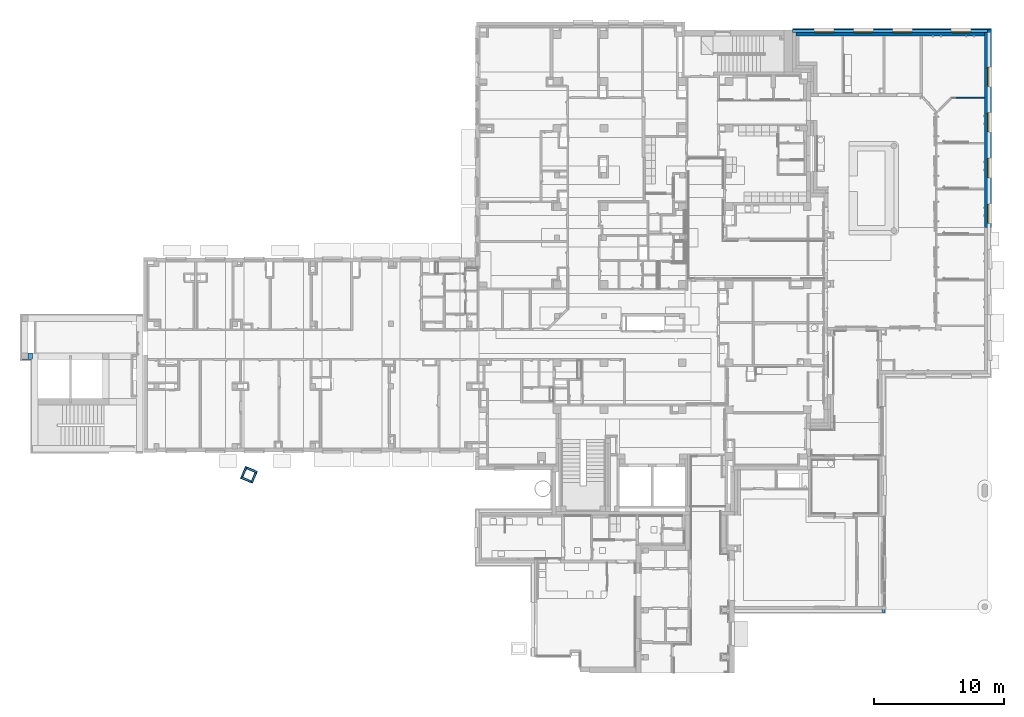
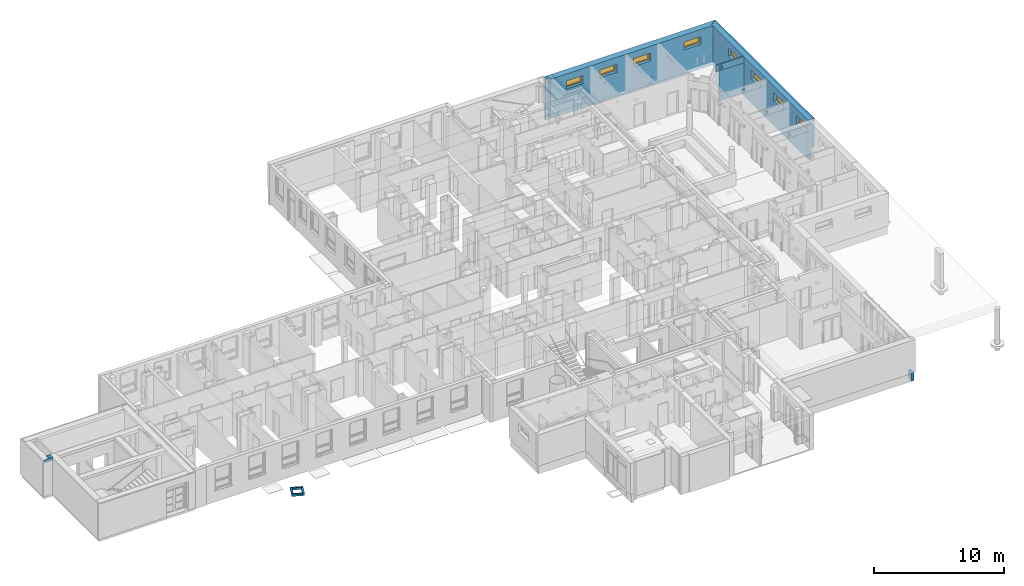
# One storey, part 60 of 140: 11 walls, 8 windows, 9 openings.
"""IFC4 building model written with IfcOpenShell, lengths in metres."""

from ifc_helpers import new_model, entity, si_unit, converted_unit, derived_unit, frame, frame_2d, origin, origin_with_axes, place, context, subcontext, project, spatial, polyline, rectangle, outline, extrude, clip, bounded_halfspace, closed_shell, open_shell, surface_model, source, transform, mapped, material, layer, layer_set, layer_usage, element, fill, save


model = new_model("IFC4")

# Units and contexts
model_context = context("Model", 3, precision=1e-05, world=origin())
body_context = subcontext(model_context, "Body", "Model", "MODEL_VIEW")
ifc_project = project(units=[si_unit("LENGTHUNIT", "METRE"), si_unit("AREAUNIT", "SQUARE_METRE"), si_unit("VOLUMEUNIT", "CUBIC_METRE"), si_unit("MASSUNIT", "GRAM", prefix="KILO"), converted_unit("PLANEANGLEUNIT", "DEGREE", entity("IfcPlaneAngleMeasure", 0.0174532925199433), si_unit("PLANEANGLEUNIT", "RADIAN"), dimensions=[0, 0, 0, 0, 0, 0, 0]), derived_unit("THERMALTRANSMITTANCEUNIT", [(si_unit("POWERUNIT", "WATT"), 1), (si_unit("THERMODYNAMICTEMPERATUREUNIT", "KELVIN"), -1), (si_unit("LENGTHUNIT", "METRE"), -2)]), derived_unit("VOLUMETRICFLOWRATEUNIT", [(si_unit("LENGTHUNIT", "METRE"), 3), (converted_unit("TIMEUNIT", "hour", entity("IfcTimeMeasure", 3600.0), si_unit("TIMEUNIT", "SECOND"), dimensions=[0, 0, 1, 0, 0, 0, 0]), -1), (si_unit("LENGTHUNIT", "METRE"), -1)])], contexts=[model_context])

# Site, building, storey
site_placement = place(None, origin())
site = spatial("IfcSite", under=ifc_project, at=site_placement, Name="3. ASŘ", CompositionType="ELEMENT")
building_placement = place(site_placement, origin())
building = spatial("IfcBuilding", under=site, at=building_placement, Name="Pavilon C", CompositionType="ELEMENT")
storey_placement = place(building_placement, origin())
storey = spatial("IfcBuildingStorey", under=building, at=storey_placement, Name="Půdorys 1.NP", CompositionType="ELEMENT", Elevation=0.0)

# Walls
ifc_material_1 = material(Name="ZELEZOBETONOVÁ KCE")
ifc_layer_1 = layer(ifc_material_1, 0.14999999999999)
ifc_layer_set_1 = layer_set([ifc_layer_1])
ifc_layer_usage_1 = layer_usage(ifc_layer_set_1, "AXIS2", "POSITIVE", 0.0)
wall_1_placement = place(storey_placement, frame((7.750225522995, -1.12928860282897, -0.35), z_axis=(0.0, 0.0, 1.0), x_axis=(-0.924305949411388, 0.381652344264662, 0.0)))
element("IfcWall", 1, at=wall_1_placement, inside=storey, material=ifc_layer_usage_1, Name="ZELEZOBETONOVÁ KCE", context=body_context, shape_type="SweptSolid", body=[
    extrude(rectangle(XDim=0.850000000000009, YDim=0.14999999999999, at=frame_2d((0.425000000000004, 0.0749999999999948), x_axis=(1.0, 0.0))), origin_with_axes(), (0.0, 0.0, 1.0), 0.2),
])
ifc_material_2 = material(Name="ZELEZOBETONOVÁ KCE")
ifc_layer_2 = layer(ifc_material_2, 0.149999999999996)
ifc_layer_set_2 = layer_set([ifc_layer_2])
ifc_layer_usage_2 = layer_usage(ifc_layer_set_2, "AXIS2", "POSITIVE", 0.0)
wall_2_placement = place(storey_placement, frame((6.82591957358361, -0.747636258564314, -0.35), z_axis=(0.0, 0.0, 1.0), x_axis=(-0.381652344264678, -0.924305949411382, 0.0)))
element("IfcWall", 2, at=wall_2_placement, inside=storey, material=ifc_layer_usage_2, Name="ZELEZOBETONOVÁ KCE", context=body_context, shape_type="SweptSolid", body=[
    extrude(rectangle(XDim=0.849999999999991, YDim=0.149999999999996, at=frame_2d((0.424999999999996, 0.0749999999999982), x_axis=(1.0, 0.0))), origin_with_axes(), (0.0, 0.0, 1.0), 0.2),
])
ifc_material_3 = material(Name="ZELEZOBETONOVÁ KCE")
ifc_layer_3 = layer(ifc_material_3, 0.149999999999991)
ifc_layer_set_3 = layer_set([ifc_layer_3])
ifc_layer_usage_3 = layer_usage(ifc_layer_set_3, "AXIS2", "POSITIVE", 0.0)
wall_3_placement = place(storey_placement, frame((6.44426722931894, -1.67194220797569, -0.35), z_axis=(0.0, 0.0, 1.0), x_axis=(0.924305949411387, -0.381652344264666, 0.0)))
element("IfcWall", 3, at=wall_3_placement, inside=storey, material=ifc_layer_usage_3, Name="ZELEZOBETONOVÁ KCE", context=body_context, shape_type="SweptSolid", body=[
    extrude(rectangle(XDim=0.850000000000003, YDim=0.149999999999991, at=frame_2d((0.425000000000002, 0.0749999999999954), x_axis=(1.0, 0.0))), origin_with_axes(), (0.0, 0.0, 1.0), 0.2),
])
ifc_material_4 = material(Name="ZELEZOBETONOVÁ KCE")
ifc_layer_4 = layer(ifc_material_4, 0.149999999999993)
ifc_layer_set_4 = layer_set([ifc_layer_4])
ifc_layer_usage_4 = layer_usage(ifc_layer_set_4, "AXIS2", "POSITIVE", 0.0)
wall_4_placement = place(storey_placement, frame((7.36857317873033, -2.05359455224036, -0.35), z_axis=(0.0, 0.0, 1.0), x_axis=(0.381652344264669, 0.924305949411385, 0.0)))
element("IfcWall", 4, at=wall_4_placement, inside=storey, material=ifc_layer_usage_4, Name="ZELEZOBETONOVÁ KCE", context=body_context, shape_type="SweptSolid", body=[
    extrude(rectangle(XDim=0.849999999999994, YDim=0.149999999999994, at=frame_2d((0.424999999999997, 0.0749999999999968), x_axis=(1.0, 0.0))), origin_with_axes(), (0.0, 0.0, 1.0), 0.2),
])
ifc_material_5 = material(Name="ZELEZOBETONOVÁ KCE")
ifc_layer_5 = layer(ifc_material_5, 0.45)
ifc_material_6 = material(Name="LIGNOPOR")
ifc_layer_6 = layer(ifc_material_6, 0.05)
ifc_layer_set_5 = layer_set([ifc_layer_5, ifc_layer_6])
ifc_layer_usage_5 = layer_usage(ifc_layer_set_5, "AXIS2", "POSITIVE", 0.0)
wall_5_placement = place(storey_placement, frame((-9.52499999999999, 7.95, 3.13), z_axis=(0.0, 0.0, 1.0), x_axis=(-1.0, 0.0, 0.0)))
element("IfcWall", 5, at=wall_5_placement, inside=storey, material=ifc_layer_usage_5, context=body_context, shape_type="SweptSolid", body=[
    extrude(outline(polyline([(-0.799999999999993, -0.5), (-0.45, -0.5), (-0.45, -0.05), (0.0, -0.05), (0.0, 0.0), (-0.75, 0.0), (-0.75, -0.05), (-0.799999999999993, -0.05), (-0.799999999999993, -0.5)])), frame((0.799999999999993, 0.5, 0.0), z_axis=(0.0, 0.0, 1.0), x_axis=(1.0, 0.0, 0.0)), (0.0, 0.0, 1.0), 0.25),
])
ifc_material_7 = material(Name="PROSKLENÁ PŘÍČKA DVOJITÁ")
ifc_layer_7 = layer(ifc_material_7, 0.1)
ifc_layer_set_6 = layer_set([ifc_layer_7])
ifc_layer_usage_6 = layer_usage(ifc_layer_set_6, "AXIS2", "POSITIVE", 0.0)
wall_6_placement = place(storey_placement, frame((61.3341630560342, 27.5, 0.0)))
element("IfcWall", 6, at=wall_6_placement, inside=storey, material=ifc_layer_usage_6, Name="PROSKLENÁ PŘÍČKA DVOJITÁ", context=body_context, shape_type="SweptSolid", body=[
    extrude(rectangle(XDim=2.21583694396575, YDim=0.1, at=frame_2d((1.10791847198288, 0.05), x_axis=(1.0, 0.0))), origin_with_axes(), (0.0, 0.0, 1.0), 2.8),
])

# Wall, openings, windows
ifc_material_8 = material(Name="ZELEZOBETONOVÁ KCE")
ifc_layer_8 = layer(ifc_material_8, 0.25)
ifc_material_9 = material(Name="MINERÁLNÍ VATA")
ifc_layer_9 = layer(ifc_material_9, 0.3)
ifc_layer_set_7 = layer_set([ifc_layer_8, ifc_layer_9])
ifc_layer_usage_7 = layer_usage(ifc_layer_set_7, "AXIS2", "POSITIVE", 0.0)
wall_7_placement = place(storey_placement, frame((63.55, 32.55, -0.3), z_axis=(0.0, 0.0, 1.0), x_axis=(0.0, -1.0, 0.0)))
wall_7 = element("IfcWall", 7, at=wall_7_placement, inside=storey, material=ifc_layer_usage_7, Name="ZELEZOBETONOVÁ KCE", context=body_context, shape_type="Clipping", body=[
    clip(extrude(outline(polyline([(-15.17, 0.55), (-15.17, 0.25), (-14.95, 0.25), (-14.95, 0.0), (0.0, 0.0), (0.0, 0.55), (-15.17, 0.55)])), frame((14.95, 0.0, 0.0), z_axis=(0.0, 0.0, 1.0), x_axis=(1.0, 0.0, 0.0)), (0.0, 0.0, 1.0), 3.7), bounded_halfspace(frame((5.892, 0.37, 1.02), z_axis=(0.0, 0.0, 1.0), x_axis=(0.0, -1.0, 0.0)), True, origin_with_axes(), polyline([(-0.22, 0.55), (-0.22, 0.25), (0.0, 0.249999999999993), (14.95, 0.249999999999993), (14.95, 0.55), (-0.22, 0.55)]))),
])
opening_1_placement = place(wall_7_placement, frame((11.15, 0.25, 2.3), z_axis=(0.0, -1.0, 0.0), x_axis=(0.0, 0.0, 1.0)))
opening_1 = element("IfcOpeningElement", 8, at=opening_1_placement, cuts=wall_7, Name="Okenní otvor", ObjectType="Opening", context=body_context, shape_type="SweptSolid", body=[
    extrude(outline(polyline([(0.0, 1.5), (0.75, 1.5), (0.75, 0.0), (0.0, 0.0), (0.0, 1.5)])), origin_with_axes(), (0.0, 0.0, 1.0), 0.25),
    extrude(outline(polyline([(0.0, 1.5), (0.75, 1.5), (0.75, 0.0), (0.0, 0.0), (0.0, 1.5)])), frame((0.0, 0.0, -0.3), z_axis=(0.0, 0.0, 1.0), x_axis=(1.0, 0.0, 0.0)), (0.0, 0.0, 1.0), 0.3),
])
opening_2_placement = place(wall_7_placement, frame((7.65000000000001, 0.25, 2.3), z_axis=(0.0, -1.0, 0.0), x_axis=(0.0, 0.0, 1.0)))
opening_2 = element("IfcOpeningElement", 9, at=opening_2_placement, cuts=wall_7, Name="Okenní otvor", ObjectType="Opening", context=body_context, shape_type="SweptSolid", body=[
    extrude(outline(polyline([(0.0, 1.5), (0.75, 1.5), (0.75, 0.0), (0.0, 0.0), (0.0, 1.5)])), origin_with_axes(), (0.0, 0.0, 1.0), 0.25),
    extrude(outline(polyline([(0.0, 1.5), (0.75, 1.5), (0.75, 0.0), (0.0, 0.0), (0.0, 1.5)])), frame((0.0, 0.0, -0.3), z_axis=(0.0, 0.0, 1.0), x_axis=(1.0, 0.0, 0.0)), (0.0, 0.0, 1.0), 0.3),
])
opening_3_placement = place(wall_7_placement, frame((4.15000000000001, 0.25, 2.3), z_axis=(0.0, -1.0, 0.0), x_axis=(0.0, 0.0, 1.0)))
opening_3 = element("IfcOpeningElement", 10, at=opening_3_placement, cuts=wall_7, Name="Okenní otvor", ObjectType="Opening", context=body_context, shape_type="SweptSolid", body=[
    extrude(outline(polyline([(0.0, 1.5), (0.75, 1.5), (0.75, 0.0), (0.0, 0.0), (0.0, 1.5)])), origin_with_axes(), (0.0, 0.0, 1.0), 0.25),
    extrude(outline(polyline([(0.0, 1.5), (0.75, 1.5), (0.75, 0.0), (0.0, 0.0), (0.0, 1.5)])), frame((0.0, 0.0, -0.3), z_axis=(0.0, 0.0, 1.0), x_axis=(1.0, 0.0, 0.0)), (0.0, 0.0, 1.0), 0.3),
])
opening_4_placement = place(wall_7_placement, frame((14.65, 0.25, 2.3), z_axis=(0.0, -1.0, 0.0), x_axis=(0.0, 0.0, 1.0)))
opening_4 = element("IfcOpeningElement", 11, at=opening_4_placement, cuts=wall_7, Name="Okenní otvor", ObjectType="Opening", context=body_context, shape_type="SweptSolid", body=[
    extrude(outline(polyline([(0.0, 1.5), (0.75, 1.5), (0.75, 0.0), (0.0, 0.0), (0.0, 1.5)])), origin_with_axes(), (0.0, 0.0, 1.0), 0.25),
    extrude(outline(polyline([(0.0, 1.5), (0.75, 1.5), (0.75, 0.0), (0.0, 0.0), (0.0, 1.5)])), frame((0.0, 0.0, -0.3), z_axis=(0.0, 0.0, 1.0), x_axis=(1.0, 0.0, 0.0)), (0.0, 0.0, 1.0), 0.3),
])
shared_shape = source(origin_with_axes(), body_context, "Body", "SurfaceModel", [
    surface_model("IfcShellBasedSurfaceModel", [(0.0, 0.0920000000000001, 0.75), (0.0, 0.092, -5.63337527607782e-18), (0.08, 0.092, -5.63337527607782e-18), (0.08, 0.0920000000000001, 0.75), (0.0, 0.0, 5.63337527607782e-18), (0.0, 8.5265128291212e-17, 0.75), (0.08, 8.5265128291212e-17, 0.75), (0.08, 0.0, 5.63337527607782e-18)], [closed_shell([[[0, 1, 2, 3]], [[4, 5, 6, 7]], [[1, 0, 5, 4]], [[2, 1, 4, 7]], [[3, 2, 7, 6]], [[0, 3, 6, 5]]], orient=[[False], [False], [False], [False], [False], [False]])]),
    surface_model("IfcShellBasedSurfaceModel", [(1.42, 0.0920000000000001, 0.75), (1.42, 0.092, -5.63337527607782e-18), (1.5, 0.092, -5.63337527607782e-18), (1.5, 0.0920000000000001, 0.75), (1.42, 0.0, 5.63337527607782e-18), (1.42, 8.5265128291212e-17, 0.75), (1.5, 8.5265128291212e-17, 0.75), (1.5, 0.0, 5.63337527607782e-18)], [closed_shell([[[0, 1, 2, 3]], [[4, 5, 6, 7]], [[1, 0, 5, 4]], [[2, 1, 4, 7]], [[3, 2, 7, 6]], [[0, 3, 6, 5]]], orient=[[False], [False], [False], [False], [False], [False]])]),
    surface_model("IfcShellBasedSurfaceModel", [(0.08, 0.092, 0.08), (0.08, 0.092, -5.63337527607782e-18), (1.42, 0.092, -5.63337527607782e-18), (1.42, 0.092, 0.08), (0.08, 0.0, 5.63337527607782e-18), (0.08, 1.4210854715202e-17, 0.08), (1.42, 1.4210854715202e-17, 0.08), (1.42, 0.0, 5.63337527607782e-18)], [closed_shell([[[0, 1, 2, 3]], [[4, 5, 6, 7]], [[1, 0, 5, 4]], [[2, 1, 4, 7]], [[3, 2, 7, 6]], [[0, 3, 6, 5]]], orient=[[False], [False], [False], [False], [False], [False]])]),
    surface_model("IfcShellBasedSurfaceModel", [(0.08, 0.0920000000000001, 0.75), (0.08, 0.0920000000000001, 0.67), (1.42, 0.0920000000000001, 0.67), (1.42, 0.0920000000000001, 0.75), (0.08, 8.5265128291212e-17, 0.67), (0.08, 9.9475983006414e-17, 0.75), (1.42, 9.9475983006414e-17, 0.75), (1.42, 8.5265128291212e-17, 0.67)], [closed_shell([[[0, 1, 2, 3]], [[4, 5, 6, 7]], [[1, 0, 5, 4]], [[2, 1, 4, 7]], [[3, 2, 7, 6]], [[0, 3, 6, 5]]], orient=[[False], [False], [False], [False], [False], [False]])]),
    surface_model("IfcShellBasedSurfaceModel", [(0.05, 0.122, 0.7), (0.05, 0.122, 0.05), (0.13, 0.122, 0.05), (0.13, 0.122, 0.7), (0.05, 0.037, 0.05), (0.05, 0.0370000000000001, 0.7), (0.13, 0.0370000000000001, 0.7), (0.13, 0.037, 0.05)], [closed_shell([[[0, 1, 2, 3]], [[4, 5, 6, 7]], [[1, 0, 5, 4]], [[2, 1, 4, 7]], [[3, 2, 7, 6]], [[0, 3, 6, 5]]], orient=[[False], [False], [False], [False], [False], [False]])]),
    surface_model("IfcShellBasedSurfaceModel", [(1.37, 0.122, 0.7), (1.37, 0.122, 0.05), (1.45, 0.122, 0.05), (1.45, 0.122, 0.7), (1.37, 0.037, 0.05), (1.37, 0.0370000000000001, 0.7), (1.45, 0.0370000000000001, 0.7), (1.45, 0.037, 0.05)], [closed_shell([[[0, 1, 2, 3]], [[4, 5, 6, 7]], [[1, 0, 5, 4]], [[2, 1, 4, 7]], [[3, 2, 7, 6]], [[0, 3, 6, 5]]], orient=[[False], [False], [False], [False], [False], [False]])]),
    surface_model("IfcShellBasedSurfaceModel", [(0.13, 0.122, 0.13), (0.13, 0.122, 0.05), (1.37, 0.122, 0.05), (1.37, 0.122, 0.13), (0.13, 0.037, 0.05), (0.13, 0.037, 0.13), (1.37, 0.037, 0.13), (1.37, 0.037, 0.05)], [closed_shell([[[0, 1, 2, 3]], [[4, 5, 6, 7]], [[1, 0, 5, 4]], [[2, 1, 4, 7]], [[3, 2, 7, 6]], [[0, 3, 6, 5]]], orient=[[False], [False], [False], [False], [False], [False]])]),
    surface_model("IfcShellBasedSurfaceModel", [(0.13, 0.122, 0.7), (0.13, 0.122, 0.62), (1.37, 0.122, 0.62), (1.37, 0.122, 0.7), (0.13, 0.0370000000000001, 0.62), (0.13, 0.0370000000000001, 0.7), (1.37, 0.0370000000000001, 0.7), (1.37, 0.0370000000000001, 0.62)], [closed_shell([[[0, 1, 2, 3]], [[4, 5, 6, 7]], [[1, 0, 5, 4]], [[2, 1, 4, 7]], [[3, 2, 7, 6]], [[0, 3, 6, 5]]], orient=[[False], [False], [False], [False], [False], [False]])]),
    surface_model("IfcShellBasedSurfaceModel", [(0.0775, 0.122, 0.4), (0.1025, 0.122, 0.4), (0.1025, 0.122, 0.36), (0.0775, 0.122, 0.36), (0.0775, 0.132, 0.36), (0.1025, 0.132, 0.36), (0.1025, 0.132, 0.4), (0.0775, 0.132, 0.4)], [closed_shell([[[0, 1, 2, 3]], [[4, 5, 6, 7]], [[3, 4, 7, 0]], [[2, 5, 4, 3]], [[1, 6, 5, 2]], [[0, 7, 6, 1]]], orient=[[False], [False], [False], [False], [False], [False]])]),
    surface_model("IfcShellBasedSurfaceModel", [(0.1, 0.132, 0.38), (0.0986602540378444, 0.132, 0.375), (0.095, 0.132, 0.371339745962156), (0.09, 0.132, 0.37), (0.085, 0.132, 0.371339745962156), (0.0813397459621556, 0.132, 0.375), (0.08, 0.132, 0.38), (0.0813397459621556, 0.132, 0.385), (0.085, 0.132, 0.388660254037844), (0.09, 0.132, 0.39), (0.095, 0.132, 0.388660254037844), (0.0986602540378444, 0.132, 0.385), (0.0986602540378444, 0.177, 0.385), (0.1, 0.172, 0.38), (0.095, 0.180660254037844, 0.388660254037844), (0.09, 0.182, 0.39), (0.085, 0.180660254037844, 0.388660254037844), (0.0813397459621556, 0.177, 0.385), (0.08, 0.172, 0.38), (0.0813397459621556, 0.167, 0.375), (0.085, 0.163339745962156, 0.371339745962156), (0.09, 0.162, 0.37), (0.095, 0.163339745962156, 0.371339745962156), (0.0986602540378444, 0.167, 0.375), (0.0986602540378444, 0.177, 0.265), (0.1, 0.172, 0.265), (0.095, 0.180660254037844, 0.265), (0.09, 0.182, 0.265), (0.085, 0.180660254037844, 0.265), (0.0813397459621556, 0.177, 0.265), (0.08, 0.172, 0.265), (0.0813397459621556, 0.167, 0.265), (0.085, 0.163339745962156, 0.265), (0.09, 0.162, 0.265), (0.095, 0.163339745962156, 0.265), (0.0986602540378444, 0.167, 0.265)], [open_shell([[[0, 1, 2, 3, 4, 5, 6, 7, 8, 9, 10, 11]], [[0, 11, 12, 13]], [[11, 10, 14, 12]], [[10, 9, 15, 14]], [[9, 8, 16, 15]], [[8, 7, 17, 16]], [[7, 6, 18, 17]], [[6, 5, 19, 18]], [[5, 4, 20, 19]], [[4, 3, 21, 20]], [[3, 2, 22, 21]], [[2, 1, 23, 22]], [[1, 0, 13, 23]], [[13, 12, 24, 25]], [[12, 14, 26, 24]], [[14, 15, 27, 26]], [[15, 16, 28, 27]], [[16, 17, 29, 28]], [[17, 18, 30, 29]], [[18, 19, 31, 30]], [[19, 20, 32, 31]], [[20, 21, 33, 32]], [[21, 22, 34, 33]], [[22, 23, 35, 34]], [[23, 13, 25, 35]]], orient=[[False], [False], [False], [False], [False], [False], [False], [False], [False], [False], [False], [False], [False], [False], [False], [False], [False], [False], [False], [False], [False], [False], [False], [False], [False]])]),
    surface_model("IfcShellBasedSurfaceModel", [(0.13, 0.0895, 0.62), (0.13, 0.0895, 0.13), (1.37, 0.0895, 0.13), (1.37, 0.0895, 0.62), (0.13, 0.0695, 0.13), (0.13, 0.0695, 0.62), (1.37, 0.0695, 0.62), (1.37, 0.0695, 0.13)], [closed_shell([[[0, 1, 2, 3]], [[4, 5, 6, 7]], [[1, 0, 5, 4]], [[2, 1, 4, 7]], [[3, 2, 7, 6]], [[0, 3, 6, 5]]], orient=[[False], [False], [False], [False], [False], [False]])]),
])
window_1_placement = place(opening_1_placement, frame((0.0, 1.49999999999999, -0.0919999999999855), z_axis=(1.0, 0.0, 0.0), x_axis=(0.0, -1.0, 1.22464679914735e-16)))
window_1 = element("IfcWindow", 12, at=window_1_placement, inside=storey, Name="I.OH01", OverallHeight=0.75, OverallWidth=1.5, PartitioningType="USERDEFINED", PredefinedType="WINDOW", context=body_context, shape_type="MappedRepresentation", body=[
    mapped(shared_shape, transform((0.0, 0.0, 0.0), x_axis=(1.0, 0.0, 0.0), y_axis=(0.0, -1.0, 0.0), z_axis=(0.0, 0.0, 1.0), scale=1.0)),
])
fill(opening_1, window_1)
window_2_placement = place(opening_2_placement, frame((0.0, 1.49999999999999, -0.0919999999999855), z_axis=(1.0, 0.0, 0.0), x_axis=(0.0, -1.0, 1.22464679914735e-16)))
window_2 = element("IfcWindow", 13, at=window_2_placement, inside=storey, Name="I.OH01", OverallHeight=0.75, OverallWidth=1.5, PartitioningType="USERDEFINED", PredefinedType="WINDOW", context=body_context, shape_type="MappedRepresentation", body=[
    mapped(shared_shape, transform((0.0, 0.0, 0.0), x_axis=(1.0, 0.0, 0.0), y_axis=(0.0, -1.0, 0.0), z_axis=(0.0, 0.0, 1.0), scale=1.0)),
])
fill(opening_2, window_2)
window_3_placement = place(opening_3_placement, frame((0.0, 1.49999999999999, -0.0919999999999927), z_axis=(1.0, 0.0, 0.0), x_axis=(0.0, -1.0, 1.22464679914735e-16)))
window_3 = element("IfcWindow", 14, at=window_3_placement, inside=storey, Name="I.OH01", OverallHeight=0.75, OverallWidth=1.5, PartitioningType="USERDEFINED", PredefinedType="WINDOW", context=body_context, shape_type="MappedRepresentation", body=[
    mapped(shared_shape, transform((0.0, 0.0, 0.0), x_axis=(1.0, 0.0, 0.0), y_axis=(0.0, -1.0, 0.0), z_axis=(0.0, 0.0, 1.0), scale=1.0)),
])
fill(opening_3, window_3)
window_4_placement = place(opening_4_placement, frame((0.0, 1.49999999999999, -0.0919999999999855), z_axis=(1.0, 0.0, 0.0), x_axis=(0.0, -1.0, 1.22464679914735e-16)))
window_4 = element("IfcWindow", 15, at=window_4_placement, inside=storey, Name="I.OH01", OverallHeight=0.75, OverallWidth=1.5, PartitioningType="USERDEFINED", PredefinedType="WINDOW", context=body_context, shape_type="MappedRepresentation", body=[
    mapped(shared_shape, transform((0.0, 0.0, 0.0), x_axis=(1.0, 0.0, 0.0), y_axis=(0.0, -1.0, 0.0), z_axis=(0.0, 0.0, 1.0), scale=1.0)),
])
fill(opening_4, window_4)

ifc_material_10 = material(Name="ZELEZOBETONOVÁ KCE")
ifc_layer_10 = layer(ifc_material_10, 0.25)
ifc_material_11 = material(Name="MINERÁLNÍ VATA")
ifc_layer_11 = layer(ifc_material_11, 0.3)
ifc_layer_set_8 = layer_set([ifc_layer_10, ifc_layer_11])
ifc_layer_usage_8 = layer_usage(ifc_layer_set_8, "AXIS2", "POSITIVE", 0.0)
wall_8_placement = place(storey_placement, frame((49.08, 32.3, -0.3)))
wall_8 = element("IfcWall", 16, at=wall_8_placement, inside=storey, material=ifc_layer_usage_8, Name="ZELEZOBETONOVÁ KCE", context=body_context, shape_type="Clipping", body=[
    clip(extrude(outline(polyline([(0.280000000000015, 0.0), (14.75, 0.0), (14.75, 0.25), (15.0, 0.25), (15.0, 0.47), (15.3, 0.47), (15.3, 0.55), (0.0, 0.55), (0.0, 0.25), (0.280000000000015, 0.25), (0.280000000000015, 0.0)])), frame((-0.280000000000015, 0.0, 0.0), z_axis=(0.0, 0.0, 1.0), x_axis=(1.0, 0.0, 0.0)), (0.0, 0.0, 1.0), 3.7), bounded_halfspace(frame((9.17374999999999, 0.380000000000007, 1.02), z_axis=(0.0, 0.0, 1.0), x_axis=(0.0, -1.0, 0.0)), True, origin_with_axes(), polyline([(-0.280000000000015, 0.55), (-0.280000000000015, 0.250000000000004), (7.27595761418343e-15, 0.25), (14.47, 0.25), (14.72, 0.250000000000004), (14.72, 0.47), (15.02, 0.47), (15.02, 0.55), (-0.280000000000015, 0.55)]))),
])
opening_5_placement = place(wall_8_placement, frame((13.42, 0.25, 2.3), z_axis=(0.0, -1.0, 0.0), x_axis=(0.0, 0.0, 1.0)))
opening_5 = element("IfcOpeningElement", 17, at=opening_5_placement, cuts=wall_8, Name="Okenní otvor", ObjectType="Opening", context=body_context, shape_type="SweptSolid", body=[
    extrude(outline(polyline([(0.0, 1.5), (0.75, 1.5), (0.75, 0.0), (0.0, 0.0), (0.0, 1.5)])), origin_with_axes(), (0.0, 0.0, 1.0), 0.25),
    extrude(outline(polyline([(0.0, 1.5), (0.75, 1.5), (0.75, 0.0), (0.0, 0.0), (0.0, 1.5)])), frame((0.0, 0.0, -0.3), z_axis=(0.0, 0.0, 1.0), x_axis=(1.0, 0.0, 0.0)), (0.0, 0.0, 1.0), 0.3),
])
opening_6_placement = place(wall_8_placement, frame((8.92, 0.25, 2.3), z_axis=(0.0, -1.0, 0.0), x_axis=(0.0, 0.0, 1.0)))
opening_6 = element("IfcOpeningElement", 18, at=opening_6_placement, cuts=wall_8, Name="Okenní otvor", ObjectType="Opening", context=body_context, shape_type="SweptSolid", body=[
    extrude(outline(polyline([(0.0, 1.5), (0.75, 1.5), (0.75, 0.0), (0.0, 0.0), (0.0, 1.5)])), origin_with_axes(), (0.0, 0.0, 1.0), 0.25),
    extrude(outline(polyline([(0.0, 1.5), (0.75, 1.5), (0.75, 0.0), (0.0, 0.0), (0.0, 1.5)])), frame((0.0, 0.0, -0.3), z_axis=(0.0, 0.0, 1.0), x_axis=(1.0, 0.0, 0.0)), (0.0, 0.0, 1.0), 0.3),
])
opening_7_placement = place(wall_8_placement, frame((5.92, 0.25, 2.3), z_axis=(0.0, -1.0, 0.0), x_axis=(0.0, 0.0, 1.0)))
opening_7 = element("IfcOpeningElement", 19, at=opening_7_placement, cuts=wall_8, Name="Okenní otvor", ObjectType="Opening", context=body_context, shape_type="SweptSolid", body=[
    extrude(outline(polyline([(0.0, 1.5), (0.75, 1.5), (0.75, 0.0), (0.0, 0.0), (0.0, 1.5)])), origin_with_axes(), (0.0, 0.0, 1.0), 0.25),
    extrude(outline(polyline([(0.0, 1.5), (0.75, 1.5), (0.75, 0.0), (0.0, 0.0), (0.0, 1.5)])), frame((0.0, 0.0, -0.3), z_axis=(0.0, 0.0, 1.0), x_axis=(1.0, 0.0, 0.0)), (0.0, 0.0, 1.0), 0.3),
])
opening_8_placement = place(wall_8_placement, frame((2.92, 0.25, 2.3), z_axis=(0.0, -1.0, 0.0), x_axis=(0.0, 0.0, 1.0)))
opening_8 = element("IfcOpeningElement", 20, at=opening_8_placement, cuts=wall_8, Name="Okenní otvor", ObjectType="Opening", context=body_context, shape_type="SweptSolid", body=[
    extrude(outline(polyline([(0.0, 1.5), (0.75, 1.5), (0.75, 0.0), (0.0, 0.0), (0.0, 1.5)])), origin_with_axes(), (0.0, 0.0, 1.0), 0.25),
    extrude(outline(polyline([(0.0, 1.5), (0.75, 1.5), (0.75, 0.0), (0.0, 0.0), (0.0, 1.5)])), frame((0.0, 0.0, -0.3), z_axis=(0.0, 0.0, 1.0), x_axis=(1.0, 0.0, 0.0)), (0.0, 0.0, 1.0), 0.3),
])
window_5_placement = place(opening_5_placement, frame((0.0, 1.5, -0.092), z_axis=(1.0, 0.0, 0.0), x_axis=(0.0, -1.0, 1.22464679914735e-16)))
window_5 = element("IfcWindow", 21, at=window_5_placement, inside=storey, Name="I.OH01", OverallHeight=0.75, OverallWidth=1.5, PartitioningType="USERDEFINED", PredefinedType="WINDOW", context=body_context, shape_type="MappedRepresentation", body=[
    mapped(shared_shape, transform((0.0, 0.0, 0.0), x_axis=(1.0, 0.0, 0.0), y_axis=(0.0, -1.0, 0.0), z_axis=(0.0, 0.0, 1.0), scale=1.0)),
])
fill(opening_5, window_5)
window_6_placement = place(opening_6_placement, frame((0.0, 1.5, -0.092), z_axis=(1.0, 0.0, 0.0), x_axis=(0.0, -1.0, 1.22464679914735e-16)))
window_6 = element("IfcWindow", 22, at=window_6_placement, inside=storey, Name="I.OH01", OverallHeight=0.75, OverallWidth=1.5, PartitioningType="USERDEFINED", PredefinedType="WINDOW", context=body_context, shape_type="MappedRepresentation", body=[
    mapped(shared_shape, transform((0.0, 0.0, 0.0), x_axis=(1.0, 0.0, 0.0), y_axis=(0.0, -1.0, 0.0), z_axis=(0.0, 0.0, 1.0), scale=1.0)),
])
fill(opening_6, window_6)
window_7_placement = place(opening_7_placement, frame((0.0, 1.5, -0.092), z_axis=(1.0, 0.0, 0.0), x_axis=(0.0, -1.0, 1.22464679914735e-16)))
window_7 = element("IfcWindow", 23, at=window_7_placement, inside=storey, Name="I.OH01", OverallHeight=0.75, OverallWidth=1.5, PartitioningType="USERDEFINED", PredefinedType="WINDOW", context=body_context, shape_type="MappedRepresentation", body=[
    mapped(shared_shape, transform((0.0, 0.0, 0.0), x_axis=(1.0, 0.0, 0.0), y_axis=(0.0, -1.0, 0.0), z_axis=(0.0, 0.0, 1.0), scale=1.0)),
])
fill(opening_7, window_7)
window_8_placement = place(opening_8_placement, frame((0.0, 1.5, -0.092), z_axis=(1.0, 0.0, 0.0), x_axis=(0.0, -1.0, 1.22464679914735e-16)))
window_8 = element("IfcWindow", 24, at=window_8_placement, inside=storey, Name="I.OH01", OverallHeight=0.75, OverallWidth=1.5, PartitioningType="USERDEFINED", PredefinedType="WINDOW", context=body_context, shape_type="MappedRepresentation", body=[
    mapped(shared_shape, transform((0.0, 0.0, 0.0), x_axis=(1.0, 0.0, 0.0), y_axis=(0.0, -1.0, 0.0), z_axis=(0.0, 0.0, 1.0), scale=1.0)),
])
fill(opening_8, window_8)

# Walls
ifc_material_12 = material(Name="PERIMETR")
ifc_layer_12 = layer(ifc_material_12, 0.22)
ifc_layer_set_9 = layer_set([ifc_layer_12])
ifc_layer_usage_9 = layer_usage(ifc_layer_set_9, "AXIS2", "POSITIVE", 0.0)
wall_9_placement = place(storey_placement, frame((48.8, 32.55, -0.5), z_axis=(0.0, 0.0, 1.0), x_axis=(1.0, -2.42531920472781e-16, 0.0)))
element("IfcWall", 25, at=wall_9_placement, inside=storey, material=ifc_layer_usage_9, Name="PERIMETR", context=body_context, shape_type="SweptSolid", body=[
    extrude(rectangle(XDim=15.0, YDim=0.22, at=frame_2d((7.5, 0.11), x_axis=(1.0, 0.0))), origin_with_axes(), (0.0, 0.0, 1.0), 1.22),
])
ifc_material_13 = material(Name="PERIMETR")
ifc_layer_13 = layer(ifc_material_13, 0.22)
ifc_layer_set_10 = layer_set([ifc_layer_13])
ifc_layer_usage_10 = layer_usage(ifc_layer_set_10, "AXIS2", "POSITIVE", 0.0)
wall_10_placement = place(storey_placement, frame((55.7000000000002, -11.5, -0.5), z_axis=(0.0, 0.0, 1.0), x_axis=(0.0, -1.0, 0.0)))
element("IfcWall", 26, at=wall_10_placement, inside=storey, material=ifc_layer_usage_10, Name="PERIMETR", context=body_context, shape_type="SweptSolid", body=[
    extrude(rectangle(XDim=0.47, YDim=0.22, at=frame_2d((0.235, 0.11), x_axis=(1.0, 0.0))), origin_with_axes(), (0.0, 0.0, 1.0), 0.8),
])

# Wall, opening
ifc_material_14 = material(Name="SDK - OCEL. KCE + 2 OPLÁŠTĚNÍ")
ifc_layer_14 = layer(ifc_material_14, 0.1)
ifc_layer_set_11 = layer_set([ifc_layer_14])
ifc_layer_usage_11 = layer_usage(ifc_layer_set_11, "AXIS2", "POSITIVE", 0.0)
wall_11_placement = place(storey_placement, frame((61.0541630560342, 27.5, 2.8), z_axis=(0.0, 0.0, 1.0), x_axis=(1.0, 2.91523756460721e-15, 0.0)))
wall_11 = element("IfcWall", 27, at=wall_11_placement, inside=storey, material=ifc_layer_usage_11, Name="SDK - OCEL. KCE + 2 OPLÁŠTĚNÍ", context=body_context, shape_type="SweptSolid", body=[
    extrude(outline(polyline([(0.0414213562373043, -1.20753093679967e-16), (2.53725830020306, -1.20753093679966e-16), (2.53725830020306, 0.0999999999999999), (2.91523756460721e-16, 0.1), (0.0414213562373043, -1.20753093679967e-16)])), frame((-0.0414213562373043, 1.20753093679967e-16, 0.0), z_axis=(0.0, 0.0, 1.0), x_axis=(1.0, 0.0, 0.0)), (0.0, 0.0, 1.0), 0.6),
])
opening_9_placement = place(wall_11_placement, frame((0.261390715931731, -7.62016034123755e-16, 0.15), z_axis=(2.8421709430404e-15, 1.0, 0.0), x_axis=(0.0, 0.0, 1.0)))
element("IfcOpeningElement", 28, at=opening_9_placement, cuts=wall_11, Name="VZT", ObjectType="Opening", context=body_context, shape_type="SweptSolid", body=[
    extrude(outline(polyline([(0.0, 0.31), (0.3, 0.31), (0.3, 0.0), (0.0, 0.0), (0.0, 0.31)])), origin_with_axes(), (0.0, 0.0, 1.0), 0.1),
])

save(model, "model.ifc")
